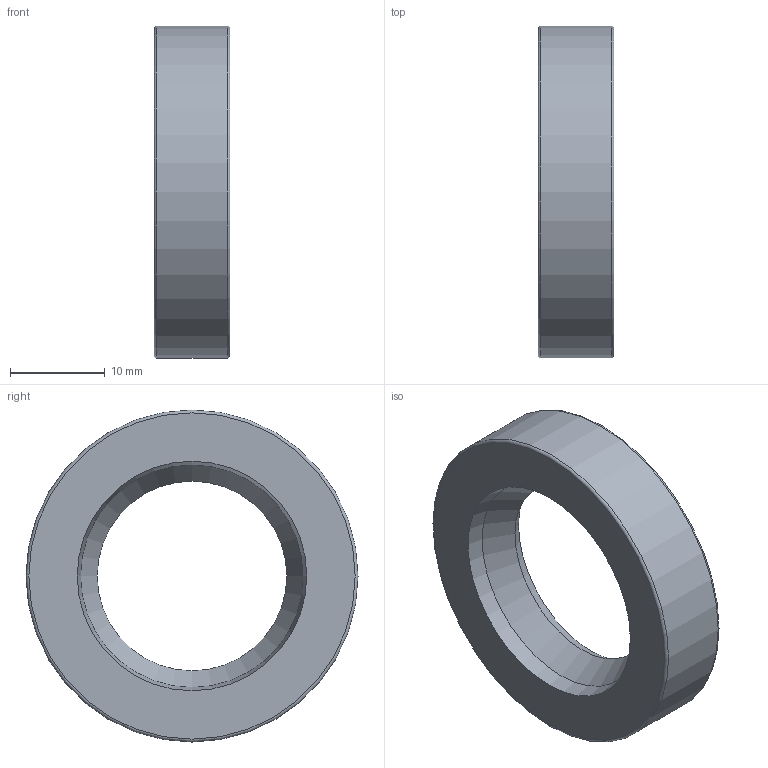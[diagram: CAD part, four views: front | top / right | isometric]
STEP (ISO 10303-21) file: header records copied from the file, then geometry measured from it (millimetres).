
FILE_DESCRIPTION(/* description */ ('오일-실'),/* implementation_level */ '2;1');
FILE_NAME(/* name */ '',/* time_stamp */ '2026-03-26T11:23:06+09:00',/* author */ ('jhkim'),/* organization */ (''),/* preprocessor_version */ 'ST-DEVELOPER v20.1',/* originating_system */ 'Autodesk Inventor 2026',/* authorisation */ '');
FILE_SCHEMA (('AUTOMOTIVE_DESIGN { 1 0 10303 214 3 1 1 }'));
Length unit declared in the file: millimetre
Products named in the file (1): 오일 실 20 35 8
Bounding box: 8 x 35 x 35 mm (x, y, z)
Volume: 2274.6 mm3; surface area: 3439.5 mm2
Topology: 1 solids, 1 shells, 15 faces, 31 edges, 20 vertices
Faces by surface type: torus 4, plane 4, cone 4, cylinder 3
Full cylindrical faces by diameter (mm): 24.2 x1, 32.5 x1, 35 x1
Entity records: 460 total; most frequent: DIRECTION 87, CARTESIAN_POINT 67, ORIENTED_EDGE 62, AXIS2_PLACEMENT_3D 40, EDGE_CURVE 31, CIRCLE 24, VERTEX_POINT 20, EDGE_LOOP 19
